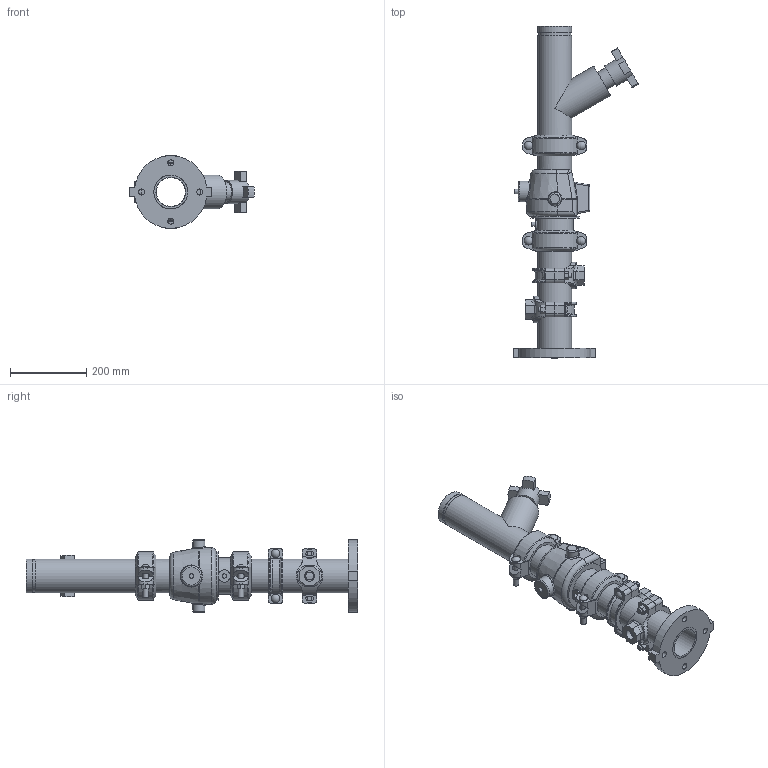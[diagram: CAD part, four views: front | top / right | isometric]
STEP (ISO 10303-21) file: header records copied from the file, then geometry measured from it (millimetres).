
FILE_DESCRIPTION(/* description */ ('VIC DVI PUMP DROP VERT S/383 (OGSxFLG)','CAx-IF Rec.Pracs.---Representation and Presentation of Product Manufacturing Information (PMI)---4.0---2014-10-13'),/* implementation_level */ '2;1');
FILE_NAME(/* name */ 'C:\Users\Public\Documents\Victaulic.Temp\A849\Victaulic_IPS_Vertical DVI_CL 150_Series 383 (OGSxFLG)_03.0x03.0 (80x80).stp',/* time_stamp */ '2022-07-25T11:38:30+02:00',/* author */ ('Vjadhav'),/* organization */ ('Victaulic'),/* preprocessor_version */ 'ST-DEVELOPER v18',/* originating_system */ 'Autodesk Inventor 2020',/* authorisation */ '');
FILE_SCHEMA (('AP242_MANAGED_MODEL_BASED_3D_ENGINEERING_MIM_LF { 1 0 10303 442 1 1 4 }'));
Length unit declared in the file: inch
Products named in the file (9): 383-03.0x03.0; 741-03.0; Pipe-03.0x03.0; 177N-03.0; 716H-03.0; 789-03.0; 920NT-03.0x0.75; 920N LOWER HSG-03.0; 920NT-03.0x0.75_1
Assembly tree (10 placements, depth 3):
  383-03.0x03.0
    741-03.0
    Pipe-03.0x03.0
    177N-03.0  x2
    716H-03.0
    789-03.0
    920NT-03.0x0.75  x2
      920N LOWER HSG-03.0
      920NT-03.0x0.75_1
Bounding box: 327.15 x 869.95 x 190.5 mm (x, y, z)
Volume: 5263824.6 mm3; surface area: 909887.9 mm2
Topology: 10 solids, 10 shells, 585 faces, 1544 edges, 1018 vertices
Faces by surface type: plane 288, cylinder 208, bspline 35, torus 31, sphere 14, cone 9
Full cylindrical faces by diameter (mm): 11.43 x2, 12.7 x8, 14.605 x4, 15.875 x4, 20.93 x2, 21.982 x4, 22.225 x4, 26.924 x2, 31.75 x2, 32.004 x1, 50.8 x1, 53.975 x1, 60.96 x1, 76.2 x2, 77.927 x2, 80.772 x1, 84.938 x6, 88.9 x15, 97.028 x1, 127 x1
Entity records: 14083 total; most frequent: CARTESIAN_POINT 3826, DIRECTION 2044, ORIENTED_EDGE 1984, EDGE_CURVE 992, AXIS2_PLACEMENT_3D 785, VERTEX_POINT 650, LINE 474, VECTOR 474
